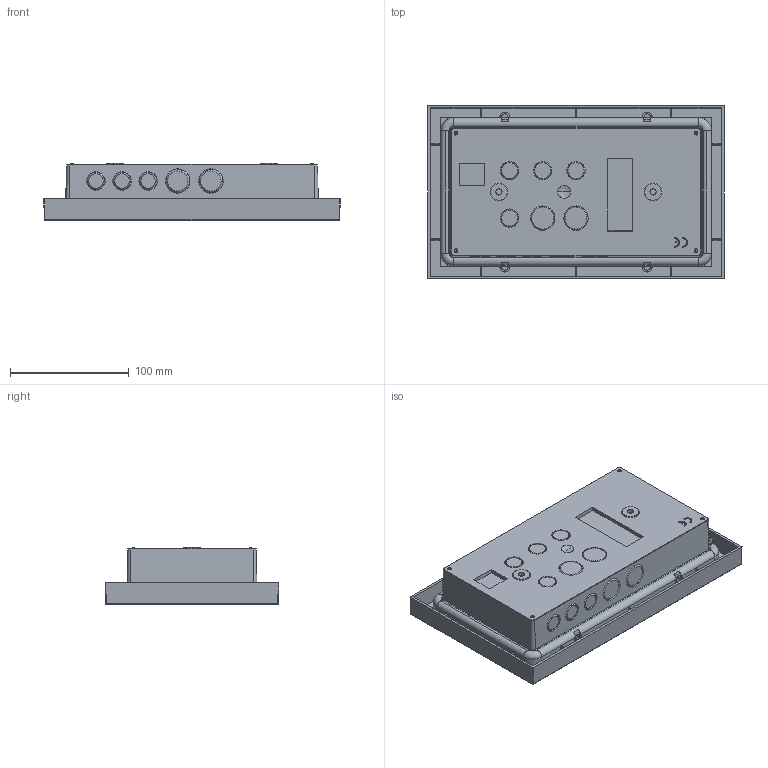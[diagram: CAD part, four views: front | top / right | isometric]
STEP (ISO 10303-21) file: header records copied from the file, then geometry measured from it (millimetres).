
FILE_DESCRIPTION (( 'STEP AP203' ), '1' );
FILE_NAME ('BIM - MATRIX.STEP', '2019-08-07T07:35:30', ( '' ), ( '' ), 'SwSTEP 2.0', 'SolidWorks 2016', '' );
FILE_SCHEMA (( 'CONFIG_CONTROL_DESIGN' ));
Length unit declared in the file: millimetre
Products named in the file (5): 3BO7526100-Pr25 - Matrix Dynamic Signage; BIM - MATRIX; 3BO7526300-Pr14 - Cover Dynamic Signage; ABO0009400 - Dynamic Signage; 3BO7526200-Pr18 - Base Dynamic Signage
Assembly tree (4 placements, depth 2):
  BIM - MATRIX
    3BO7526200-Pr18 - Base Dynamic Signage
    3BO7526300-Pr14 - Cover Dynamic Signage
    3BO7526100-Pr25 - Matrix Dynamic Signage
    ABO0009400 - Dynamic Signage
Bounding box: 250.04 x 146.54 x 48.52 mm (x, y, z)
Volume: 273918.2 mm3; surface area: 279698.6 mm2
Topology: 4 solids, 4 shells, 1325 faces, 3538 edges, 2254 vertices
Faces by surface type: plane 998, cylinder 131, cone 86, bspline 68, torus 36, sphere 6
Entity records: 45300 total; most frequent: CARTESIAN_POINT 12439, ORIENTED_EDGE 7048, DIRECTION 6247, EDGE_CURVE 3524, LINE 2639, VECTOR 2639, VERTEX_POINT 2254, AXIS2_PLACEMENT_3D 1804
